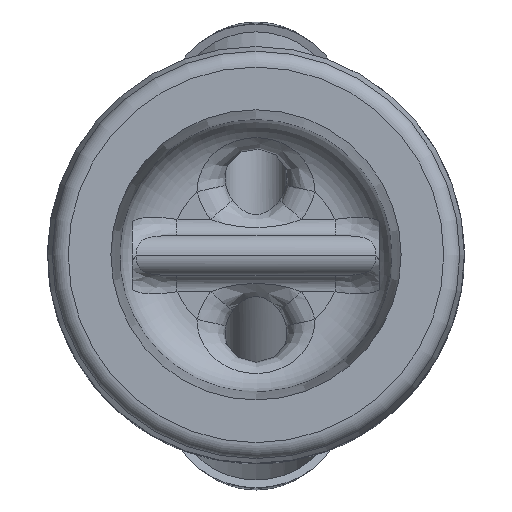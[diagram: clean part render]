
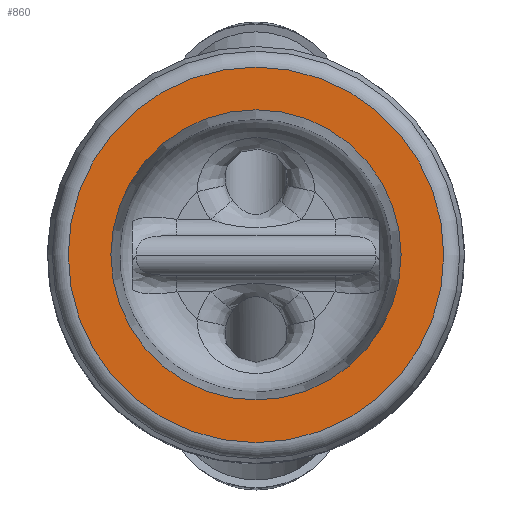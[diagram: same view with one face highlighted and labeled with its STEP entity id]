
A CAD part, top view. The second image highlights one B-rep face of the part: STEP entity #860.
In plain terms, the highlighted planar face has unit normal (0, 0, 1).
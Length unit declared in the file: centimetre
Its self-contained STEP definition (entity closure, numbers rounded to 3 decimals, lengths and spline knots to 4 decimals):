
#149=PLANE('',#1125);
#281=VERTEX_POINT('',#3876);
#287=VERTEX_POINT('',#3895);
#323=CIRCLE('',#1109,1.1176);
#329=CIRCLE('',#1122,1.4466);
#431=EDGE_CURVE('',#281,#281,#323,.T.);
#437=EDGE_CURVE('',#287,#287,#329,.T.);
#647=ORIENTED_EDGE('',*,*,#431,.T.);
#648=ORIENTED_EDGE('',*,*,#437,.F.);
#723=EDGE_LOOP('',(#647));
#724=EDGE_LOOP('',(#648));
#799=FACE_BOUND('',#723,.T.);
#800=FACE_BOUND('',#724,.T.);
#860=ADVANCED_FACE('',(#799,#800),#149,.T.);
#999=DIRECTION('',(0.,0.,-1.));
#1000=DIRECTION('',(0.,1.118,0.));
#1020=DIRECTION('',(0.,0.,-1.));
#1021=DIRECTION('',(0.,-1.447,0.));
#1026=DIRECTION('',(0.,0.,1.));
#1109=AXIS2_PLACEMENT_3D('',#3875,#999,#1000);
#1122=AXIS2_PLACEMENT_3D('',#3894,#1020,#1021);
#1125=AXIS2_PLACEMENT_3D('',#3899,#1026,$);
#3875=CARTESIAN_POINT('',(0.,0.,0.));
#3876=CARTESIAN_POINT('',(0.,1.1176,0.));
#3894=CARTESIAN_POINT('',(0.,0.,0.));
#3895=CARTESIAN_POINT('',(0.,1.4466,0.));
#3899=CARTESIAN_POINT('',(0.,0.772,0.));
